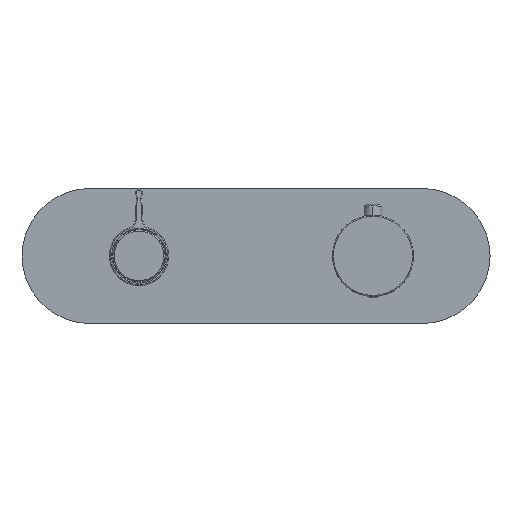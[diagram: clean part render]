
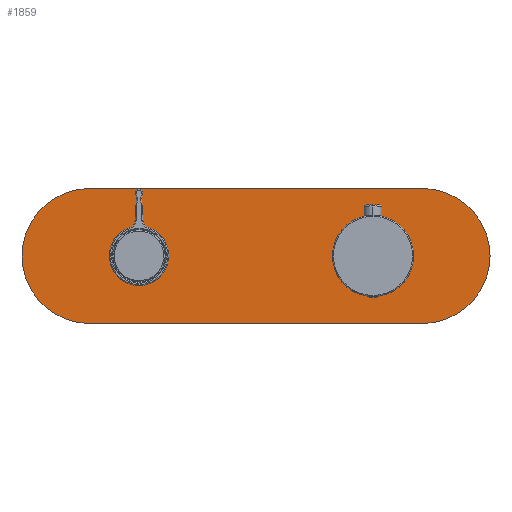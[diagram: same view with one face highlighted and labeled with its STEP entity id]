
A CAD part, top view. The second image highlights one B-rep face of the part: STEP entity #1859.
In plain terms, the highlighted planar face has unit normal (0, 0, 1).
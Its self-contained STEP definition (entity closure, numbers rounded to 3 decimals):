
#22=CARTESIAN_POINT('',(65.,0.,4.));
#23=DIRECTION('',(0.,0.,-1.));
#24=DIRECTION('',(-1.,0.,0.));
#25=AXIS2_PLACEMENT_3D('',#22,#23,#24);
#27=CARTESIAN_POINT('',(-92.5,0.,4.));
#28=DIRECTION('',(0.,0.,1.));
#29=DIRECTION('',(0.,1.,0.));
#30=AXIS2_PLACEMENT_3D('',#27,#28,#29);
#32=DIRECTION('',(-1.,0.,0.));
#33=VECTOR('',#32,185.);
#34=CARTESIAN_POINT('',(92.5,37.5,4.));
#35=LINE('',#34,#33);
#36=CARTESIAN_POINT('',(92.5,0.,4.));
#37=DIRECTION('',(0.,0.,1.));
#38=DIRECTION('',(0.,-1.,0.));
#39=AXIS2_PLACEMENT_3D('',#36,#37,#38);
#41=DIRECTION('',(1.,0.,0.));
#42=VECTOR('',#41,185.);
#43=CARTESIAN_POINT('',(-92.5,-37.5,4.));
#44=LINE('',#43,#42);
#45=CARTESIAN_POINT('',(65.,0.,4.));
#46=DIRECTION('',(0.,0.,-1.));
#47=DIRECTION('',(1.,0.,0.));
#48=AXIS2_PLACEMENT_3D('',#45,#46,#47);
#1089=CARTESIAN_POINT('',(-65.,0.,4.));
#1090=DIRECTION('',(0.,0.,1.));
#1091=DIRECTION('',(0.,-1.,0.));
#1092=AXIS2_PLACEMENT_3D('',#1089,#1090,#1091);
#1098=CARTESIAN_POINT('',(-65.,0.,4.));
#1099=DIRECTION('',(0.,0.,1.));
#1100=DIRECTION('',(0.,1.,0.));
#1101=AXIS2_PLACEMENT_3D('',#1098,#1099,#1100);
#1576=CARTESIAN_POINT('',(-92.5,37.5,4.));
#1577=CARTESIAN_POINT('',(-92.5,-37.5,4.));
#1578=VERTEX_POINT('',#1576);
#1579=VERTEX_POINT('',#1577);
#1580=CARTESIAN_POINT('',(92.5,-37.5,4.));
#1581=VERTEX_POINT('',#1580);
#1582=CARTESIAN_POINT('',(92.5,37.5,4.));
#1583=VERTEX_POINT('',#1582);
#1750=CARTESIAN_POINT('',(42.5,0.,4.));
#1751=CARTESIAN_POINT('',(87.5,0.,4.));
#1752=VERTEX_POINT('',#1750);
#1753=VERTEX_POINT('',#1751);
#1754=CARTESIAN_POINT('',(-65.,-15.,4.));
#1755=CARTESIAN_POINT('',(-65.,15.,4.));
#1756=VERTEX_POINT('',#1754);
#1757=VERTEX_POINT('',#1755);
#1833=CARTESIAN_POINT('',(65.,0.,4.));
#1834=DIRECTION('',(0.,0.,1.));
#1835=DIRECTION('',(1.,0.,0.));
#1836=AXIS2_PLACEMENT_3D('',#1833,#1834,#1835);
#1837=PLANE('',#1836);
#1839=ORIENTED_EDGE('',*,*,#1838,.F.);
#1841=ORIENTED_EDGE('',*,*,#1840,.F.);
#1843=ORIENTED_EDGE('',*,*,#1842,.F.);
#1845=ORIENTED_EDGE('',*,*,#1844,.F.);
#1846=EDGE_LOOP('',(#1839,#1841,#1843,#1845));
#1847=FACE_OUTER_BOUND('',#1846,.F.);
#1849=ORIENTED_EDGE('',*,*,#1848,.T.);
#1851=ORIENTED_EDGE('',*,*,#1850,.T.);
#1852=EDGE_LOOP('',(#1849,#1851));
#1853=FACE_BOUND('',#1852,.F.);
#1854=ORIENTED_EDGE('',*,*,#1815,.F.);
#1856=ORIENTED_EDGE('',*,*,#1855,.F.);
#1857=EDGE_LOOP('',(#1854,#1856));
#1858=FACE_BOUND('',#1857,.F.);
#26=CIRCLE('',#25,22.5);
#31=CIRCLE('',#30,37.5);
#40=CIRCLE('',#39,37.5);
#49=CIRCLE('',#48,22.5);
#1093=CIRCLE('',#1092,15.);
#1102=CIRCLE('',#1101,15.);
#1815=EDGE_CURVE('',#1752,#1753,#26,.T.);
#1838=EDGE_CURVE('',#1578,#1579,#31,.T.);
#1840=EDGE_CURVE('',#1583,#1578,#35,.T.);
#1842=EDGE_CURVE('',#1581,#1583,#40,.T.);
#1844=EDGE_CURVE('',#1579,#1581,#44,.T.);
#1848=EDGE_CURVE('',#1756,#1757,#1093,.T.);
#1850=EDGE_CURVE('',#1757,#1756,#1102,.T.);
#1855=EDGE_CURVE('',#1753,#1752,#49,.T.);
#1859=ADVANCED_FACE('',(#1847,#1853,#1858),#1837,.T.);
